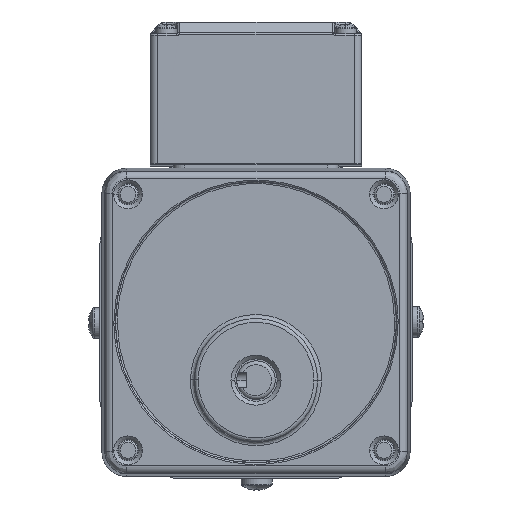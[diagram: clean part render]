
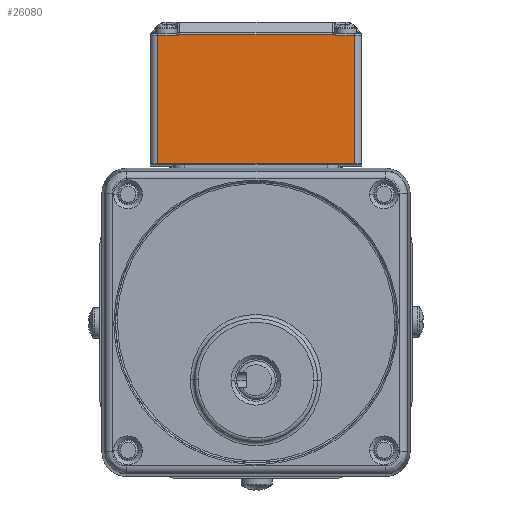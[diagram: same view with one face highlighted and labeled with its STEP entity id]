
A CAD part, front view. The second image highlights one B-rep face of the part: STEP entity #26080.
In plain terms, the highlighted planar face has unit normal (0, -1, 0.008).
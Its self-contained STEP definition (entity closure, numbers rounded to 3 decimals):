
#773 = DIRECTION ( 'NONE',  ( 0., -1., 0.008 ) ) ;
#865 = ORIENTED_EDGE ( 'NONE', *, *, #46138, .F. ) ;
#1705 = DIRECTION ( 'NONE',  ( 1., 0., 0. ) ) ;
#2564 = CARTESIAN_POINT ( 'NONE',  ( 19.835, -3.885, 74.773 ) ) ;
#3095 = CARTESIAN_POINT ( 'NONE',  ( 20.091, -3.887, 74.636 ) ) ;
#3214 = ORIENTED_EDGE ( 'NONE', *, *, #44723, .F. ) ;
#3347 = CARTESIAN_POINT ( 'NONE',  ( -25.5, -3.888, 74.48 ) ) ;
#3385 = VECTOR ( 'NONE', #9624, 1000. ) ;
#4746 = ORIENTED_EDGE ( 'NONE', *, *, #40618, .F. ) ;
#4964 = AXIS2_PLACEMENT_3D ( 'NONE', #23038, #773, #48650 ) ;
#5759 = VERTEX_POINT ( 'NONE', #2564 ) ;
#6268 = LINE ( 'NONE', #22846, #23410 ) ;
#6328 =( BOUNDED_CURVE ( )  B_SPLINE_CURVE ( 3, ( #46440, #20503, #16769, #46967, #37853, #50689, #41888, #24787, #51246, #42159, #38148, #34143, #55270, #54983, #3095, #25056, #55557, #16499, #41598, #29614, #33886, #12205, #24220, #15661 ),
 .UNSPECIFIED., .F., .T. ) 
 B_SPLINE_CURVE_WITH_KNOTS ( ( 4, 1, 1, 1, 1, 1, 1, 1, 1, 1, 1, 1, 1, 1, 1, 1, 1, 1, 1, 1, 1, 4 ),
 ( 0., 0.006, 0.036, 0.064, 0.092, 0.12, 0.148, 0.177, 0.208, 0.242, 0.279, 0.32, 0.364, 0.412, 0.465, 0.524, 0.59, 0.663, 0.745, 0.834, 0.932, 1. ),
 .UNSPECIFIED. ) 
 CURVE ( )  GEOMETRIC_REPRESENTATION_ITEM ( )  RATIONAL_B_SPLINE_CURVE ( ( 1.172, 1.172, 1.172, 1.172, 1.172, 1.172, 1.172, 1.172, 1.172, 1.172, 1.172, 1.172, 1.172, 1.172, 1.172, 1.172, 1.172, 1.172, 1.172, 1.172, 1.172, 1.172, 1.172, 1.172 ) ) 
 REPRESENTATION_ITEM ( '' )  );
#7463 = EDGE_CURVE ( 'NONE', #54189, #35342, #11911, .T. ) ;
#8965 = ORIENTED_EDGE ( 'NONE', *, *, #23910, .F. ) ;
#9624 = DIRECTION ( 'NONE',  ( -1., 0., 0. ) ) ;
#11009 = VERTEX_POINT ( 'NONE', #29602 ) ;
#11329 = CARTESIAN_POINT ( 'NONE',  ( -19.905, -3.884, 74.743 ) ) ;
#11911 = LINE ( 'NONE', #3347, #43466 ) ;
#12205 = CARTESIAN_POINT ( 'NONE',  ( 20.614, -3.888, 74.482 ) ) ;
#14310 = DIRECTION ( 'NONE',  ( 0., -0.008, -1. ) ) ;
#15563 = VERTEX_POINT ( 'NONE', #19521 ) ;
#15661 = CARTESIAN_POINT ( 'NONE',  ( 20.701, -3.888, 74.48 ) ) ;
#16152 = CARTESIAN_POINT ( 'NONE',  ( -25.5, -4.161, 41.181 ) ) ;
#16270 = VECTOR ( 'NONE', #14310, 1000. ) ;
#16499 = CARTESIAN_POINT ( 'NONE',  ( 20.264, -3.887, 74.559 ) ) ;
#16769 = CARTESIAN_POINT ( 'NONE',  ( 19.835, -3.885, 74.773 ) ) ;
#18028 = CARTESIAN_POINT ( 'NONE',  ( -19.835, -3.885, 74.773 ) ) ;
#18485 = LINE ( 'NONE', #48961, #3385 ) ;
#18495 = CARTESIAN_POINT ( 'NONE',  ( -20.392, -3.886, 74.516 ) ) ;
#18573 = ORIENTED_EDGE ( 'NONE', *, *, #28409, .F. ) ;
#19521 = CARTESIAN_POINT ( 'NONE',  ( 25.5, -4.161, 41.181 ) ) ;
#19595 = EDGE_LOOP ( 'NONE', ( #44117, #18573, #53071, #3214, #8965, #865, #4746, #24906 ) ) ;
#20503 = CARTESIAN_POINT ( 'NONE',  ( 19.835, -3.885, 74.773 ) ) ;
#22726 = DIRECTION ( 'NONE',  ( 1., 0., 0. ) ) ;
#22796 = CARTESIAN_POINT ( 'NONE',  ( -20.622, -3.887, 74.483 ) ) ;
#22846 = CARTESIAN_POINT ( 'NONE',  ( 20.701, -3.888, 74.48 ) ) ;
#23038 = CARTESIAN_POINT ( 'NONE',  ( 0., -4.163, 40.981 ) ) ;
#23336 = CARTESIAN_POINT ( 'NONE',  ( -20.107, -3.885, 74.626 ) ) ;
#23410 = VECTOR ( 'NONE', #1705, 1000. ) ;
#23910 = EDGE_CURVE ( 'NONE', #5759, #47550, #6328, .T. ) ;
#24220 = CARTESIAN_POINT ( 'NONE',  ( 20.675, -3.888, 74.48 ) ) ;
#24587 = CARTESIAN_POINT ( 'NONE',  ( -20.701, -3.888, 74.48 ) ) ;
#24787 = CARTESIAN_POINT ( 'NONE',  ( 19.875, -3.886, 74.756 ) ) ;
#24906 = ORIENTED_EDGE ( 'NONE', *, *, #7463, .F. ) ;
#25056 = CARTESIAN_POINT ( 'NONE',  ( 20.141, -3.887, 74.611 ) ) ;
#25301 = VECTOR ( 'NONE', #53039, 1000. ) ;
#26080 = ADVANCED_FACE ( 'NONE', ( #26470 ), #30745, .T. ) ;
#26470 = FACE_OUTER_BOUND ( 'NONE', #19595, .T. ) ;
#27129 = CARTESIAN_POINT ( 'NONE',  ( -25.5, -3.888, 74.48 ) ) ;
#27622 = CARTESIAN_POINT ( 'NONE',  ( -20.701, -3.888, 74.48 ) ) ;
#28409 = EDGE_CURVE ( 'NONE', #15563, #38165, #18485, .T. ) ;
#29602 = CARTESIAN_POINT ( 'NONE',  ( 25.5, -3.888, 74.48 ) ) ;
#29614 = CARTESIAN_POINT ( 'NONE',  ( 20.424, -3.888, 74.511 ) ) ;
#30745 = PLANE ( 'NONE',  #4964 ) ;
#30834 = B_SPLINE_CURVE_WITH_KNOTS ( 'NONE', 3,
 ( #27622, #22796, #40154, #18495, #53237, #44994, #23336, #45562, #11329, #32451 ),
 .UNSPECIFIED., .F., .F.,
 ( 4, 2, 2, 2, 4 ),
 ( 0., 0.25, 0.5, 0.75, 1. ),
 .UNSPECIFIED. ) ;
#31263 = LINE ( 'NONE', #48618, #43437 ) ;
#32451 = CARTESIAN_POINT ( 'NONE',  ( -19.835, -3.885, 74.773 ) ) ;
#33886 = CARTESIAN_POINT ( 'NONE',  ( 20.521, -3.888, 74.492 ) ) ;
#34143 = CARTESIAN_POINT ( 'NONE',  ( 19.974, -3.886, 74.7 ) ) ;
#34812 = LINE ( 'NONE', #27129, #25301 ) ;
#35342 = VERTEX_POINT ( 'NONE', #24587 ) ;
#37853 = CARTESIAN_POINT ( 'NONE',  ( 19.839, -3.886, 74.772 ) ) ;
#38115 = DIRECTION ( 'NONE',  ( 1., 0., 0. ) ) ;
#38148 = CARTESIAN_POINT ( 'NONE',  ( 19.944, -3.886, 74.717 ) ) ;
#38165 = VERTEX_POINT ( 'NONE', #16152 ) ;
#40154 = CARTESIAN_POINT ( 'NONE',  ( -20.543, -3.887, 74.488 ) ) ;
#40618 = EDGE_CURVE ( 'NONE', #35342, #55725, #30834, .T. ) ;
#40829 = LINE ( 'NONE', #53067, #16270 ) ;
#41598 = CARTESIAN_POINT ( 'NONE',  ( 20.339, -3.887, 74.534 ) ) ;
#41888 = CARTESIAN_POINT ( 'NONE',  ( 19.859, -3.886, 74.764 ) ) ;
#42159 = CARTESIAN_POINT ( 'NONE',  ( 19.918, -3.886, 74.733 ) ) ;
#43035 = EDGE_CURVE ( 'NONE', #11009, #15563, #40829, .T. ) ;
#43437 = VECTOR ( 'NONE', #22726, 1000. ) ;
#43466 = VECTOR ( 'NONE', #38115, 1000. ) ;
#44117 = ORIENTED_EDGE ( 'NONE', *, *, #46664, .T. ) ;
#44723 = EDGE_CURVE ( 'NONE', #47550, #11009, #6268, .T. ) ;
#44994 = CARTESIAN_POINT ( 'NONE',  ( -20.176, -3.886, 74.593 ) ) ;
#45562 = CARTESIAN_POINT ( 'NONE',  ( -19.971, -3.885, 74.7 ) ) ;
#46138 = EDGE_CURVE ( 'NONE', #55725, #5759, #31263, .T. ) ;
#46440 = CARTESIAN_POINT ( 'NONE',  ( 19.835, -3.885, 74.773 ) ) ;
#46664 = EDGE_CURVE ( 'NONE', #54189, #38165, #34812, .T. ) ;
#46967 = CARTESIAN_POINT ( 'NONE',  ( 19.835, -3.885, 74.773 ) ) ;
#47150 = CARTESIAN_POINT ( 'NONE',  ( -25.5, -3.888, 74.48 ) ) ;
#47550 = VERTEX_POINT ( 'NONE', #53117 ) ;
#48618 = CARTESIAN_POINT ( 'NONE',  ( -19.835, -3.885, 74.773 ) ) ;
#48650 = DIRECTION ( 'NONE',  ( -1., 0., 0. ) ) ;
#48961 = CARTESIAN_POINT ( 'NONE',  ( 25.5, -4.161, 41.181 ) ) ;
#50689 = CARTESIAN_POINT ( 'NONE',  ( 19.847, -3.886, 74.769 ) ) ;
#51246 = CARTESIAN_POINT ( 'NONE',  ( 19.895, -3.886, 74.746 ) ) ;
#53039 = DIRECTION ( 'NONE',  ( 0., -0.008, -1. ) ) ;
#53067 = CARTESIAN_POINT ( 'NONE',  ( 25.5, -3.888, 74.48 ) ) ;
#53071 = ORIENTED_EDGE ( 'NONE', *, *, #43035, .F. ) ;
#53117 = CARTESIAN_POINT ( 'NONE',  ( 20.701, -3.888, 74.48 ) ) ;
#53237 = CARTESIAN_POINT ( 'NONE',  ( -20.319, -3.886, 74.538 ) ) ;
#54189 = VERTEX_POINT ( 'NONE', #47150 ) ;
#54983 = CARTESIAN_POINT ( 'NONE',  ( 20.047, -3.886, 74.659 ) ) ;
#55270 = CARTESIAN_POINT ( 'NONE',  ( 20.008, -3.886, 74.68 ) ) ;
#55557 = CARTESIAN_POINT ( 'NONE',  ( 20.198, -3.887, 74.585 ) ) ;
#55725 = VERTEX_POINT ( 'NONE', #18028 ) ;
